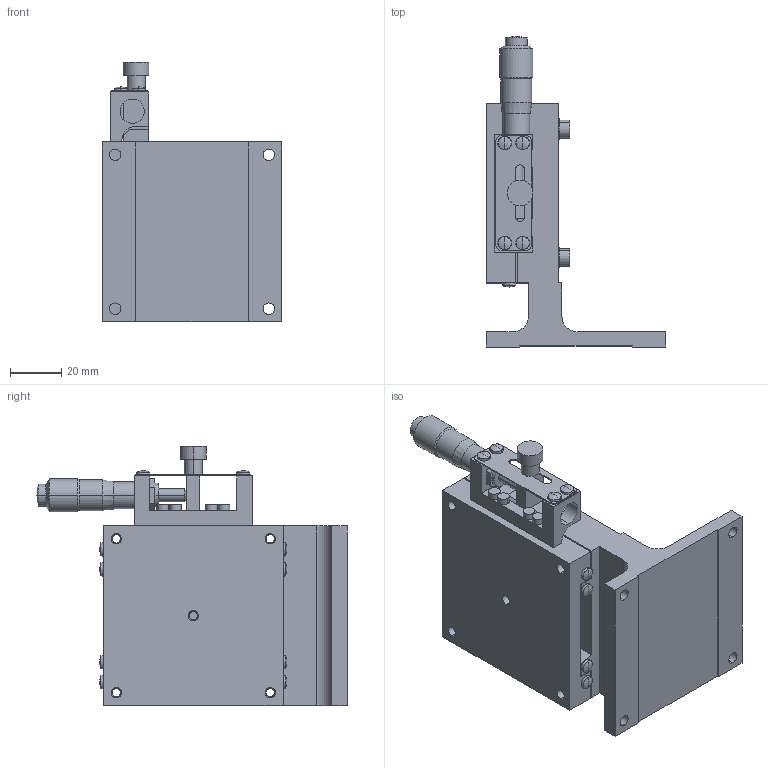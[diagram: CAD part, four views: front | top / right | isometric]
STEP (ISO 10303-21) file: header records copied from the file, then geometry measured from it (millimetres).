
FILE_DESCRIPTION (( 'STEP AP214' ), '1' );
FILE_NAME ('LZ‐7041‐S1‐2.STEP', '2007-08-29T01:18:05', ( '' ), ( '' ), 'SwSTEP 2.0', 'SolidWorks 2006303', '' );
FILE_SCHEMA (( 'AUTOMOTIVE_DESIGN' ));
Length unit declared in the file: millimetre
Products named in the file (3): LZ‐7041‐S1‐2; LZ70S120‐1_ﾃﾞﾌｫﾙﾄ; LZ70S120‐2_ﾃﾞﾌｫﾙﾄ
Assembly tree (2 placements, depth 2):
  LZ‐7041‐S1‐2
    LZ70S120‐2_ﾃﾞﾌｫﾙﾄ
    LZ70S120‐1_ﾃﾞﾌｫﾙﾄ
Bounding box: 70 x 121 x 101 mm (x, y, z)
Volume: 176506.6 mm3; surface area: 59161.9 mm2
Topology: 3 solids, 9 shells, 356 faces, 843 edges, 542 vertices
Faces by surface type: cylinder 153, plane 145, cone 30, sphere 26, torus 2
Entity records: 10506 total; most frequent: DIRECTION 1973, CARTESIAN_POINT 1744, ORIENTED_EDGE 1682, EDGE_CURVE 841, AXIS2_PLACEMENT_3D 771, VERTEX_POINT 542, EDGE_LOOP 443, VECTOR 431
